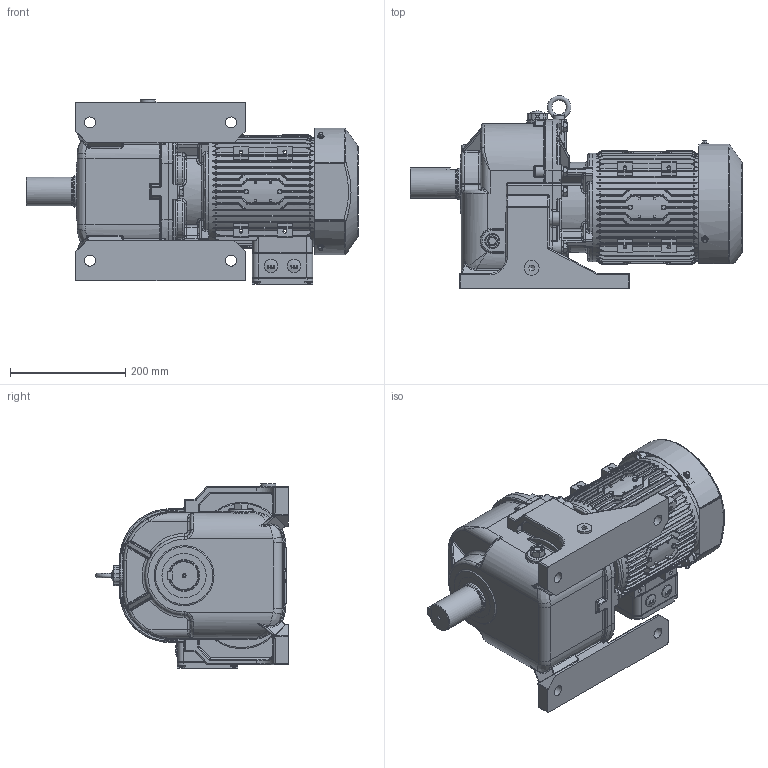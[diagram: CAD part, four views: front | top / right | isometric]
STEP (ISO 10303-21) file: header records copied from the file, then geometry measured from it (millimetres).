
FILE_DESCRIPTION(/* description */ (''),/* implementation_level */ '2;1');
FILE_NAME(/* name */ 'D:\▼ 3D：MG\01. 내부 직접 검토품\MG 181\외형도용 - ASS''Y\SK2\MG1810A - OUTLINE (SK2，HT，2.2kW).stp',/* time_stamp */ '2026-04-13T15:34:04+09:00',/* author */ ('이정훈'),/* organization */ (''),/* preprocessor_version */ 'ST-DEVELOPER v18.1',/* originating_system */ 'Autodesk Inventor 2022',/* authorisation */ '');
FILE_SCHEMA (('AUTOMOTIVE_DESIGN { 1 0 10303 214 3 1 1 }'));
Products named in the file (1): MG1810A - OUTLINE (SK2，HT，2.2kW
)
Bounding box: 576.3 x 334.5 x 319.4 mm (x, y, z)
Volume: 19292098 mm3; surface area: 910936.2 mm2
Topology: 6 solids, 6 shells, 4533 faces, 11405 edges, 6848 vertices
Faces by surface type: plane 1488, cylinder 1482, bspline 980, cone 243, torus 222, sphere 118
Full cylindrical faces by diameter (mm): 3.504 x2, 4 x1, 5.5 x3, 6.8 x4, 7.008 x1, 9 x4, 9.5 x4, 10 x9, 12 x9, 13 x2, 13.097 x1, 18.631 x1, 19 x4, 23 x3, 26 x3, 26.194 x1, 30.5 x1, 47 x1, 49.4 x1, 50 x1, 55 x1, 62 x1, 189 x2
Entity records: 186751 total; most frequent: CARTESIAN_POINT 82347, ORIENTED_EDGE 22608, DIRECTION 21161, EDGE_CURVE 11304, AXIS2_PLACEMENT_3D 8363, VERTEX_POINT 6860, EDGE_LOOP 4658, FACE_OUTER_BOUND 4533
